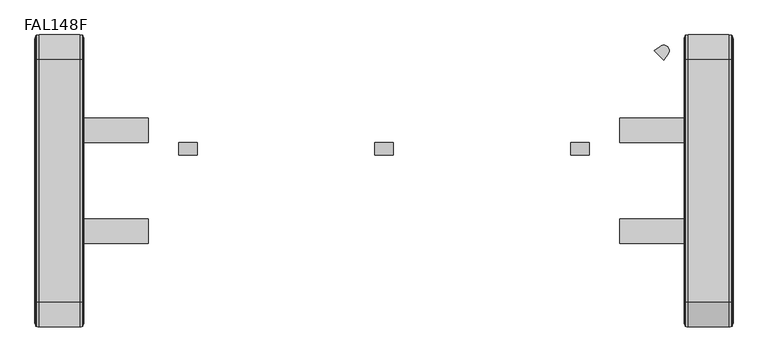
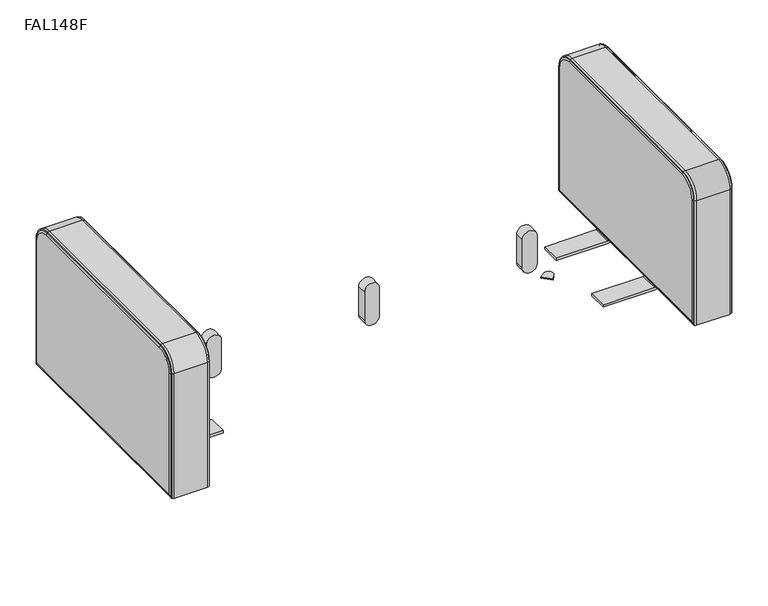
"""IFC4 building model written with IfcOpenShell, lengths in millimetres: furniture geometry, Stance_HC-Flora-Seat_Straight : FAL148F."""

from ifc_helpers import new_model, si_unit, point, frame, frame_2d, origin, place, context, project, spatial, polyline, circle_curve, ellipse_curve, trimmed, segment, composite_curve, outline, extrude, source, transform, mapped, element, save
from ifc_brep_helpers import plane_surface, cylinder_surface, revolved_surface, advanced_brep


def fal148f_be86bac1(model_context):
    return source(origin(), model_context, "Body", "SolidModel", [
        extrude(outline(composite_curve([segment(polyline([(298.45, 596.9), (222.25, 596.9)]), True, "CONTINUOUS"), segment(trimmed(circle_curve(frame_2d((222.25, 615.95)), 19.05), [point((222.25, 596.9))], [point((222.25, 635.0))], False, "CARTESIAN"), True, "CONTINUOUS"), segment(polyline([(222.25, 635.0), (298.45, 635.0)]), True, "CONTINUOUS"), segment(trimmed(circle_curve(frame_2d((298.45, 615.95)), 19.05), [point((298.45, 635.0))], [point((298.45, 596.9))], False, "CARTESIAN"), True, "CONTINUOUS")], self_intersect=False)), frame((0.0, -249.250193, 0.0), z_axis=(0.0, 1.0, 0.0), x_axis=(0.0, 0.0, 1.0)), (0.0, 0.0, 1.0), 25.3999939),
        extrude(outline(composite_curve([segment(polyline([(319.1128982, 1244.599997), (204.8129042, 1244.599997)]), True, "CONTINUOUS"), segment(trimmed(circle_curve(frame_2d((204.8129042, 1238.249997)), 6.35), [point((204.8129042, 1244.599997))], [point((198.4629042, 1238.249997))], True, "CARTESIAN"), True, "CONTINUOUS"), segment(polyline([(198.4629042, 1238.249997), (198.4629042, 1104.900003), (192.1128921, 1104.900003), (192.1128921, 1238.249997)]), True, "CONTINUOUS"), segment(trimmed(circle_curve(frame_2d((204.8129042, 1238.249997)), 12.7000121), [point((192.1128921, 1238.249997))], [point((204.8129042, 1250.9500091))], False, "CARTESIAN"), True, "CONTINUOUS"), segment(polyline([(204.8129042, 1250.9500091), (319.1128982, 1250.9500091), (319.1128982, 1244.599997)]), True, "CONTINUOUS")], self_intersect=False)), frame((0.0, -223.8501991, 0.0), z_axis=(0.0, 1.0, 0.0), x_axis=(0.0, 0.0, 1.0)), (0.0, 0.0, 1.0), 50.7999879),
        extrude(outline(composite_curve([segment(polyline([(319.1128982, 1244.599997), (204.8129042, 1244.599997)]), True, "CONTINUOUS"), segment(trimmed(circle_curve(frame_2d((204.8129042, 1238.249997)), 6.35), [point((204.8129042, 1244.599997))], [point((198.4629042, 1238.249997))], True, "CARTESIAN"), True, "CONTINUOUS"), segment(polyline([(198.4629042, 1238.249997), (198.4629042, 1104.900003), (192.1128921, 1104.900003), (192.1128921, 1238.249997)]), True, "CONTINUOUS"), segment(trimmed(circle_curve(frame_2d((204.8129042, 1238.249997)), 12.7000121), [point((192.1128921, 1238.249997))], [point((204.8129042, 1250.9500091))], False, "CARTESIAN"), True, "CONTINUOUS"), segment(polyline([(204.8129042, 1250.9500091), (319.1128982, 1250.9500091), (319.1128982, 1244.599997)]), True, "CONTINUOUS")], self_intersect=False)), frame((0.0, -433.3239864, 0.0), z_axis=(0.0, 1.0, 0.0), x_axis=(0.0, 0.0, 1.0)), (0.0, 0.0, 1.0), 50.7999879),
        advanced_brep(
        [(1238.2499485, -555.6250121, 580.256636), (1238.2499485, -50.8, 580.256636), (1238.2499485, -8.73125, 538.187886), (1238.2499485, -8.73125, 207.1941542), (1238.2499485, -597.6937621, 207.1941542), (1238.2499485, -597.6937621, 538.187886), (1339.849997, -597.6937621, 538.187886), (1339.849997, -597.6937621, 207.1941542), (1339.849997, -8.73125, 207.1941542), (1339.849997, -8.73125, 538.187886), (1339.849997, -50.8, 580.256636), (1339.849997, -555.6250121, 580.256636), (1246.734142, -606.4250121, 538.187886), (1331.3658035, -606.4250121, 538.187886), (1331.3658035, -555.6250121, 588.987886), (1246.734142, -555.6250121, 588.987886), (1246.734142, -606.4250121, 198.4629042), (1331.3658035, -606.4250121, 198.4629042), (1246.734142, 0.0, 198.4629042), (1331.3658035, 0.0, 198.4629042), (1246.734142, 0.0, 538.187886), (1331.3658035, 0.0, 538.187886), (1246.734142, -50.8, 588.987886), (1331.3658035, -50.8, 588.987886), (1337.2065441, -603.3867316, 538.187886), (1337.2065441, -555.6250121, 585.9496056), (1337.2689212, -555.6250121, 587.8832953), (1337.2689212, -605.3204213, 538.187886), (1337.2065441, -603.3867316, 201.5011847), (1337.2689212, -605.3204213, 199.567495), (1337.2065441, -3.0382805, 201.5011847), (1337.2689212, -1.1045908, 199.567495), (1337.2065441, -3.0382805, 538.187886), (1337.2689212, -1.1045908, 538.187886), (1337.2065441, -50.8, 585.9496056), (1337.2689212, -50.8, 587.8832953), (1240.8310243, -555.6250121, 587.8832953), (1240.8310243, -605.3204213, 538.187886), (1240.8934014, -555.6250121, 585.9496056), (1240.8934014, -603.3867316, 538.187886), (1240.8310243, -605.3204213, 199.567495), (1240.8934014, -603.3867316, 201.5011847), (1240.8310243, -1.1045908, 199.567495), (1240.8934014, -3.0382805, 201.5011847), (1240.8310243, -1.1045908, 538.187886), (1240.8934014, -3.0382805, 538.187886), (1240.8310243, -50.8, 587.8832953), (1240.8934014, -50.8, 585.9496056)],
        [
            (0, 1),
            (1, 2, circle_curve(frame((1238.2499485, -50.8, 538.187886), z_axis=(-1.0, 0.0, 0.0), x_axis=(0.0, 1.0, 0.0)), 42.06875)),
            (2, 3),
            (3, 4),
            (4, 5),
            (5, 0, circle_curve(frame((1238.2499485, -555.6250121, 538.187886), z_axis=(-1.0, 0.0, 0.0), x_axis=(0.0, 0.0, 1.0)), 42.06875)),
            (6, 7),
            (7, 8),
            (8, 9),
            (9, 10, circle_curve(frame((1339.849997, -50.8, 538.187886), z_axis=(1.0, 0.0, 0.0), x_axis=(0.0, 1.0, 0.0)), 42.06875)),
            (10, 11),
            (11, 6, circle_curve(frame((1339.849997, -555.6250121, 538.187886), z_axis=(1.0, 0.0, 0.0), x_axis=(0.0, 0.0, 1.0)), 42.06875)),
            (12, 13),
            (13, 14, circle_curve(frame((1331.3658035, -555.6250121, 538.187886), z_axis=(-1.0, 0.0, 0.0), x_axis=(0.0, 0.0, 1.0)), 50.8)),
            (14, 15),
            (15, 12, circle_curve(frame((1246.734142, -555.6250121, 538.187886), z_axis=(1.0, 0.0, 0.0), x_axis=(0.0, 0.0, 1.0)), 50.8)),
            (12, 16),
            (16, 17),
            (17, 13),
            (16, 18),
            (18, 19),
            (19, 17),
            (18, 20),
            (20, 21),
            (21, 19),
            (20, 22, circle_curve(frame((1246.734142, -50.8, 538.187886), z_axis=(1.0, 0.0, 0.0), x_axis=(0.0, 1.0, 0.0)), 50.8)),
            (22, 23),
            (23, 21, circle_curve(frame((1331.3658035, -50.8, 538.187886), z_axis=(-1.0, 0.0, 0.0), x_axis=(0.0, 1.0, 0.0)), 50.8)),
            (14, 23),
            (22, 15),
            (24, 6, circle_curve(frame((1332.3980492, -597.6937621, 538.187886), z_axis=(0.0, 0.0, 1.0), x_axis=(0.0, 1.0, 0.0)), 7.4519478)),
            (11, 25, circle_curve(frame((1332.3980492, -555.6250121, 580.256636), z_axis=(0.0, -1.0, 0.0), x_axis=(0.0, 0.0, -1.0)), 7.4519478)),
            (25, 24, circle_curve(frame((1337.2065441, -555.6250121, 538.187886), z_axis=(1.0, 0.0, 0.0), x_axis=(0.0, 0.0, 1.0)), 47.7617195)),
            (25, 26, circle_curve(frame((1336.8982081, -555.6250121, 586.9274028), z_axis=(0.0, -1.0, 0.0), x_axis=(0.0, 0.0, -1.0)), 1.0252602)),
            (26, 27, circle_curve(frame((1337.2689212, -555.6250121, 538.187886), z_axis=(1.0, 0.0, 0.0), x_axis=(0.0, 0.0, 1.0)), 49.6954092)),
            (27, 24, circle_curve(frame((1336.8982081, -604.3645289, 538.187886), z_axis=(0.0, 0.0, 1.0), x_axis=(0.0, 1.0, 0.0)), 1.0252602)),
            (13, 27, circle_curve(frame((1331.3658035, -590.099093, 538.187886), z_axis=(0.0, 0.0, 1.0), x_axis=(0.0, 1.0, 0.0)), 16.3259191)),
            (26, 14, circle_curve(frame((1331.3658035, -555.6250121, 572.661967), z_axis=(0.0, -1.0, 0.0), x_axis=(0.0, 0.0, -1.0)), 16.3259191)),
            (24, 28),
            (28, 7, ellipse_curve(frame((1332.3980492, -597.6937621, 207.1941542), z_axis=(0.0, -0.7071067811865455, 0.7071067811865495), x_axis=(0.0, 0.7071067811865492, 0.7071067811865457)), 10.5386456, 7.4519478)),
            (27, 29),
            (29, 28, ellipse_curve(frame((1336.8982081, -604.3645289, 200.5233874), z_axis=(0.0, -0.7071067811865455, 0.7071067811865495), x_axis=(0.0, 0.7071067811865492, 0.7071067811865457)), 1.4499369, 1.0252602)),
            (17, 29, ellipse_curve(frame((1331.3658035, -590.099093, 214.7888233), z_axis=(0.0, -0.7071067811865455, 0.7071067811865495), x_axis=(0.0, 0.7071067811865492, 0.7071067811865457)), 23.0883362, 16.3259191)),
            (28, 30),
            (30, 8, ellipse_curve(frame((1332.3980492, -8.73125, 207.1941542), z_axis=(0.0, -0.7071067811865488, -0.7071067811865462), x_axis=(0.0, -0.7071067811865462, 0.7071067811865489)), 10.5386456, 7.4519478)),
            (29, 31),
            (31, 30, ellipse_curve(frame((1336.8982081, -2.0604832, 200.5233874), z_axis=(0.0, -0.7071067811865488, -0.7071067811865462), x_axis=(0.0, -0.7071067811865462, 0.7071067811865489)), 1.4499369, 1.0252602)),
            (19, 31, ellipse_curve(frame((1331.3658035, -16.3259191, 214.7888233), z_axis=(0.0, -0.7071067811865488, -0.7071067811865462), x_axis=(0.0, -0.7071067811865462, 0.7071067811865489)), 23.0883362, 16.3259191)),
            (30, 32),
            (32, 9, circle_curve(frame((1332.3980492, -8.73125, 538.187886), z_axis=(0.0, 0.0, -1.0), x_axis=(0.0, -1.0, 0.0)), 7.4519478)),
            (31, 33),
            (33, 32, circle_curve(frame((1336.8982081, -2.0604832, 538.187886), z_axis=(0.0, 0.0, -1.0), x_axis=(0.0, -1.0, 0.0)), 1.0252602)),
            (21, 33, circle_curve(frame((1331.3658035, -16.3259191, 538.187886), z_axis=(0.0, 0.0, -1.0), x_axis=(0.0, -1.0, 0.0)), 16.3259191)),
            (32, 34, circle_curve(frame((1337.2065441, -50.8, 538.187886), z_axis=(1.0, 0.0, 0.0), x_axis=(0.0, 1.0, 0.0)), 47.7617195)),
            (34, 10, circle_curve(frame((1332.3980492, -50.8, 580.256636), z_axis=(0.0, 1.0, 0.0), x_axis=(0.0, 0.0, -1.0)), 7.4519478)),
            (33, 35, circle_curve(frame((1337.2689212, -50.8, 538.187886), z_axis=(1.0, 0.0, 0.0), x_axis=(0.0, 1.0, 0.0)), 49.6954092)),
            (35, 34, circle_curve(frame((1336.8982081, -50.8, 586.9274028), z_axis=(0.0, 1.0, 0.0), x_axis=(0.0, 0.0, -1.0)), 1.0252602)),
            (23, 35, circle_curve(frame((1331.3658035, -50.8, 572.661967), z_axis=(0.0, 1.0, 0.0), x_axis=(0.0, 0.0, -1.0)), 16.3259191)),
            (34, 25),
            (35, 26),
            (15, 36, circle_curve(frame((1246.734142, -555.6250121, 572.661967), z_axis=(0.0, -1.0, 0.0), x_axis=(0.0, 0.0, -1.0)), 16.3259191)),
            (36, 37, circle_curve(frame((1240.8310243, -555.6250121, 538.187886), z_axis=(1.0, 0.0, 0.0), x_axis=(0.0, 0.0, 1.0)), 49.6954092)),
            (37, 12, circle_curve(frame((1246.734142, -590.099093, 538.187886), z_axis=(0.0, 0.0, 1.0), x_axis=(0.0, 1.0, 0.0)), 16.3259191)),
            (36, 38, circle_curve(frame((1241.2017374, -555.6250121, 586.9274028), z_axis=(0.0, -1.0, 0.0), x_axis=(0.0, 0.0, -1.0)), 1.0252602)),
            (38, 39, circle_curve(frame((1240.8934014, -555.6250121, 538.187886), z_axis=(1.0, 0.0, 0.0), x_axis=(0.0, 0.0, 1.0)), 47.7617195)),
            (39, 37, circle_curve(frame((1241.2017374, -604.3645289, 538.187886), z_axis=(0.0, 0.0, 1.0), x_axis=(0.0, 1.0, 0.0)), 1.0252602)),
            (38, 0, circle_curve(frame((1245.7018963, -555.6250121, 580.256636), z_axis=(0.0, -1.0, 0.0), x_axis=(0.0, 0.0, -1.0)), 7.4519478)),
            (5, 39, circle_curve(frame((1245.7018963, -597.6937621, 538.187886), z_axis=(0.0, 0.0, 1.0), x_axis=(0.0, 1.0, 0.0)), 7.4519478)),
            (37, 40),
            (40, 16, ellipse_curve(frame((1246.734142, -590.099093, 214.7888233), z_axis=(0.0, -0.7071067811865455, 0.7071067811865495), x_axis=(0.0, 0.7071067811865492, 0.7071067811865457)), 23.0883362, 16.3259191)),
            (39, 41),
            (41, 40, ellipse_curve(frame((1241.2017374, -604.3645289, 200.5233874), z_axis=(0.0, -0.7071067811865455, 0.7071067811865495), x_axis=(0.0, 0.7071067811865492, 0.7071067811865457)), 1.4499369, 1.0252602)),
            (4, 41, ellipse_curve(frame((1245.7018963, -597.6937621, 207.1941542), z_axis=(0.0, -0.7071067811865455, 0.7071067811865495), x_axis=(0.0, 0.7071067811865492, 0.7071067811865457)), 10.5386456, 7.4519478)),
            (40, 42),
            (42, 18, ellipse_curve(frame((1246.734142, -16.3259191, 214.7888233), z_axis=(0.0, -0.7071067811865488, -0.7071067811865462), x_axis=(0.0, -0.7071067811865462, 0.7071067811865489)), 23.0883362, 16.3259191)),
            (41, 43),
            (43, 42, ellipse_curve(frame((1241.2017374, -2.0604832, 200.5233874), z_axis=(0.0, -0.7071067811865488, -0.7071067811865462), x_axis=(0.0, -0.7071067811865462, 0.7071067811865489)), 1.4499369, 1.0252602)),
            (3, 43, ellipse_curve(frame((1245.7018963, -8.73125, 207.1941542), z_axis=(0.0, -0.7071067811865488, -0.7071067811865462), x_axis=(0.0, -0.7071067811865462, 0.7071067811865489)), 10.5386456, 7.4519478)),
            (42, 44),
            (44, 20, circle_curve(frame((1246.734142, -16.3259191, 538.187886), z_axis=(0.0, 0.0, -1.0), x_axis=(0.0, -1.0, 0.0)), 16.3259191)),
            (43, 45),
            (45, 44, circle_curve(frame((1241.2017374, -2.0604832, 538.187886), z_axis=(0.0, 0.0, -1.0), x_axis=(0.0, -1.0, 0.0)), 1.0252602)),
            (2, 45, circle_curve(frame((1245.7018963, -8.73125, 538.187886), z_axis=(0.0, 0.0, -1.0), x_axis=(0.0, -1.0, 0.0)), 7.4519478)),
            (44, 46, circle_curve(frame((1240.8310243, -50.8, 538.187886), z_axis=(1.0, 0.0, 0.0), x_axis=(0.0, 1.0, 0.0)), 49.6954092)),
            (46, 22, circle_curve(frame((1246.734142, -50.8, 572.661967), z_axis=(0.0, 1.0, 0.0), x_axis=(0.0, 0.0, -1.0)), 16.3259191)),
            (45, 47, circle_curve(frame((1240.8934014, -50.8, 538.187886), z_axis=(1.0, 0.0, 0.0), x_axis=(0.0, 1.0, 0.0)), 47.7617195)),
            (47, 46, circle_curve(frame((1241.2017374, -50.8, 586.9274028), z_axis=(0.0, 1.0, 0.0), x_axis=(0.0, 0.0, -1.0)), 1.0252602)),
            (1, 47, circle_curve(frame((1245.7018963, -50.8, 580.256636), z_axis=(0.0, 1.0, 0.0), x_axis=(0.0, 0.0, -1.0)), 7.4519478)),
            (46, 36),
            (47, 38),
        ],
        [
            plane_surface(frame((1238.2499485, -555.6250121, 580.256636), z_axis=(-1.0, 0.0, 0.0), x_axis=(0.0, -1.0, 0.0))),
            plane_surface(frame((1339.849997, -555.6250121, 580.256636), z_axis=(1.0, 0.0, 0.0), x_axis=(0.0, 1.0, 0.0))),
            cylinder_surface(frame((1231.9, -555.6250121, 538.187886), z_axis=(-1.0, 0.0, 0.0), x_axis=(0.0, 0.0, 1.0)), 50.8),
            plane_surface(frame((1331.3658035, -606.4250121, 538.187886), z_axis=(0.0, -1.0, 0.0), x_axis=(0.0, 0.0, -1.0))),
            plane_surface(frame((1331.3658035, -606.4250121, 198.4629042), z_axis=(0.0, 0.0, -1.0), x_axis=(0.0, 1.0, 0.0))),
            plane_surface(frame((1331.3658035, 0.0, 198.4629042), z_axis=(0.0, 1.0, 0.0), x_axis=(0.0, 0.0, 1.0))),
            cylinder_surface(frame((1231.9, -50.8, 538.187886), z_axis=(-1.0, 0.0, 0.0), x_axis=(0.0, 1.0, 0.0)), 50.8),
            plane_surface(frame((1331.3658035, -50.8, 588.987886), z_axis=(0.0, 0.0, 1.0), x_axis=(0.0, -1.0, 0.0))),
            revolved_surface(trimmed(ellipse_curve(frame((1332.3980492, -555.6250121, 580.256636), z_axis=(0.0, -1.0, 0.0), x_axis=(0.0, 0.0, -1.0)), 7.4519478, 7.4519478), [point((1339.849997, -555.6250121, 580.256636))], [point((1337.2065441, -555.6250121, 585.9496056))], True, "CARTESIAN"), (1231.9, -555.6250121, 538.187886), (-1.0, 0.0, 0.0)),
            revolved_surface(trimmed(ellipse_curve(frame((1336.8982081, -555.6250121, 586.9274028), z_axis=(0.0, -1.0, 0.0), x_axis=(0.0, 0.0, -1.0)), 1.0252602, 1.0252602), [point((1337.2065441, -555.6250121, 585.9496056))], [point((1337.2689212, -555.6250121, 587.8832953))], True, "CARTESIAN"), (1231.9, -555.6250121, 538.187886), (-1.0, 0.0, 0.0)),
            revolved_surface(trimmed(ellipse_curve(frame((1331.3658035, -555.6250121, 572.661967), z_axis=(0.0, -1.0, 0.0), x_axis=(0.0, 0.0, -1.0)), 16.3259191, 16.3259191), [point((1337.2689212, -555.6250121, 587.8832953))], [point((1331.3658035, -555.6250121, 588.987886))], True, "CARTESIAN"), (1231.9, -555.6250121, 538.187886), (-1.0, 0.0, 0.0)),
            cylinder_surface(frame((1332.3980492, -597.6937621, 538.187886), z_axis=(0.0, 0.0, 1.0), x_axis=(0.0, 1.0, 0.0)), 7.4519478),
            cylinder_surface(frame((1336.8982081, -604.3645289, 538.187886), z_axis=(0.0, 0.0, 1.0), x_axis=(0.0, 1.0, 0.0)), 1.0252602),
            cylinder_surface(frame((1331.3658035, -590.099093, 538.187886), z_axis=(0.0, 0.0, 1.0), x_axis=(0.0, 1.0, 0.0)), 16.3259191),
            cylinder_surface(frame((1332.3980492, -606.4250121, 207.1941542), z_axis=(0.0, -1.0, 0.0), x_axis=(0.0, 0.0, 1.0)), 7.4519478),
            cylinder_surface(frame((1336.8982081, -606.4250121, 200.5233874), z_axis=(0.0, -1.0, 0.0), x_axis=(0.0, 0.0, 1.0)), 1.0252602),
            cylinder_surface(frame((1331.3658035, -606.4250121, 214.7888233), z_axis=(0.0, -1.0, 0.0), x_axis=(0.0, 0.0, 1.0)), 16.3259191),
            cylinder_surface(frame((1332.3980492, -8.73125, 198.4629042), z_axis=(0.0, 0.0, -1.0), x_axis=(0.0, -1.0, 0.0)), 7.4519478),
            cylinder_surface(frame((1336.8982081, -2.0604832, 198.4629042), z_axis=(0.0, 0.0, -1.0), x_axis=(0.0, -1.0, 0.0)), 1.0252602),
            cylinder_surface(frame((1331.3658035, -16.3259191, 198.4629042), z_axis=(0.0, 0.0, -1.0), x_axis=(0.0, -1.0, 0.0)), 16.3259191),
            revolved_surface(trimmed(ellipse_curve(frame((1332.3980492, -8.73125, 538.187886), z_axis=(0.0, 0.0, 1.0), x_axis=(0.0, -1.0, 0.0)), 7.4519478, 7.4519478), [point((1339.849997, -8.73125, 538.187886))], [point((1337.2065441, -3.0382805, 538.187886))], True, "CARTESIAN"), (1231.9, -50.8, 538.187886), (-1.0, 0.0, 0.0)),
            revolved_surface(trimmed(ellipse_curve(frame((1336.8982081, -2.0604832, 538.187886), z_axis=(0.0, 0.0, 1.0), x_axis=(0.0, -1.0, 0.0)), 1.0252602, 1.0252602), [point((1337.2065441, -3.0382805, 538.187886))], [point((1337.2689212, -1.1045908, 538.187886))], True, "CARTESIAN"), (1231.9, -50.8, 538.187886), (-1.0, 0.0, 0.0)),
            revolved_surface(trimmed(ellipse_curve(frame((1331.3658035, -16.3259191, 538.187886), z_axis=(0.0, 0.0, 1.0), x_axis=(0.0, -1.0, 0.0)), 16.3259191, 16.3259191), [point((1337.2689212, -1.1045908, 538.187886))], [point((1331.3658035, 0.0, 538.187886))], True, "CARTESIAN"), (1231.9, -50.8, 538.187886), (-1.0, 0.0, 0.0)),
            cylinder_surface(frame((1332.3980492, -50.8, 580.256636), z_axis=(0.0, 1.0, 0.0), x_axis=(0.0, 0.0, -1.0)), 7.4519478),
            cylinder_surface(frame((1336.8982081, -50.8, 586.9274028), z_axis=(0.0, 1.0, 0.0), x_axis=(0.0, 0.0, -1.0)), 1.0252602),
            cylinder_surface(frame((1331.3658035, -50.8, 572.661967), z_axis=(0.0, 1.0, 0.0), x_axis=(0.0, 0.0, -1.0)), 16.3259191),
            revolved_surface(trimmed(ellipse_curve(frame((1246.734142, -555.6250121, 572.661967), z_axis=(0.0, -1.0, 0.0), x_axis=(0.0, 0.0, -1.0)), 16.3259191, 16.3259191), [point((1246.734142, -555.6250121, 588.987886))], [point((1240.8310243, -555.6250121, 587.8832953))], True, "CARTESIAN"), (1231.9, -555.6250121, 538.187886), (-1.0, 0.0, 0.0)),
            revolved_surface(trimmed(ellipse_curve(frame((1241.2017374, -555.6250121, 586.9274028), z_axis=(0.0, -1.0, 0.0), x_axis=(0.0, 0.0, -1.0)), 1.0252602, 1.0252602), [point((1240.8310243, -555.6250121, 587.8832953))], [point((1240.8934014, -555.6250121, 585.9496056))], True, "CARTESIAN"), (1231.9, -555.6250121, 538.187886), (-1.0, 0.0, 0.0)),
            revolved_surface(trimmed(ellipse_curve(frame((1245.7018963, -555.6250121, 580.256636), z_axis=(0.0, -1.0, 0.0), x_axis=(0.0, 0.0, -1.0)), 7.4519478, 7.4519478), [point((1240.8934014, -555.6250121, 585.9496056))], [point((1238.2499485, -555.6250121, 580.256636))], True, "CARTESIAN"), (1231.9, -555.6250121, 538.187886), (-1.0, 0.0, 0.0)),
            cylinder_surface(frame((1246.734142, -590.099093, 538.187886), z_axis=(0.0, 0.0, 1.0), x_axis=(0.0, 1.0, 0.0)), 16.3259191),
            cylinder_surface(frame((1241.2017374, -604.3645289, 538.187886), z_axis=(0.0, 0.0, 1.0), x_axis=(0.0, 1.0, 0.0)), 1.0252602),
            cylinder_surface(frame((1245.7018963, -597.6937621, 538.187886), z_axis=(0.0, 0.0, 1.0), x_axis=(0.0, 1.0, 0.0)), 7.4519478),
            cylinder_surface(frame((1246.734142, -606.4250121, 214.7888233), z_axis=(0.0, -1.0, 0.0), x_axis=(0.0, 0.0, 1.0)), 16.3259191),
            cylinder_surface(frame((1241.2017374, -606.4250121, 200.5233874), z_axis=(0.0, -1.0, 0.0), x_axis=(0.0, 0.0, 1.0)), 1.0252602),
            cylinder_surface(frame((1245.7018963, -606.4250121, 207.1941542), z_axis=(0.0, -1.0, 0.0), x_axis=(0.0, 0.0, 1.0)), 7.4519478),
            cylinder_surface(frame((1246.734142, -16.3259191, 198.4629042), z_axis=(0.0, 0.0, -1.0), x_axis=(0.0, -1.0, 0.0)), 16.3259191),
            cylinder_surface(frame((1241.2017374, -2.0604832, 198.4629042), z_axis=(0.0, 0.0, -1.0), x_axis=(0.0, -1.0, 0.0)), 1.0252602),
            cylinder_surface(frame((1245.7018963, -8.73125, 198.4629042), z_axis=(0.0, 0.0, -1.0), x_axis=(0.0, -1.0, 0.0)), 7.4519478),
            revolved_surface(trimmed(ellipse_curve(frame((1246.734142, -16.3259191, 538.187886), z_axis=(0.0, 0.0, 1.0), x_axis=(0.0, -1.0, 0.0)), 16.3259191, 16.3259191), [point((1246.734142, 0.0, 538.187886))], [point((1240.8310243, -1.1045908, 538.187886))], True, "CARTESIAN"), (1231.9, -50.8, 538.187886), (-1.0, 0.0, 0.0)),
            revolved_surface(trimmed(ellipse_curve(frame((1241.2017374, -2.0604832, 538.187886), z_axis=(0.0, 0.0, 1.0), x_axis=(0.0, -1.0, 0.0)), 1.0252602, 1.0252602), [point((1240.8310243, -1.1045908, 538.187886))], [point((1240.8934014, -3.0382805, 538.187886))], True, "CARTESIAN"), (1231.9, -50.8, 538.187886), (-1.0, 0.0, 0.0)),
            revolved_surface(trimmed(ellipse_curve(frame((1245.7018963, -8.73125, 538.187886), z_axis=(0.0, 0.0, 1.0), x_axis=(0.0, -1.0, 0.0)), 7.4519478, 7.4519478), [point((1240.8934014, -3.0382805, 538.187886))], [point((1238.2499485, -8.73125, 538.187886))], True, "CARTESIAN"), (1231.9, -50.8, 538.187886), (-1.0, 0.0, 0.0)),
            cylinder_surface(frame((1246.734142, -50.8, 572.661967), z_axis=(0.0, 1.0, 0.0), x_axis=(0.0, 0.0, -1.0)), 16.3259191),
            cylinder_surface(frame((1241.2017374, -50.8, 586.9274028), z_axis=(0.0, 1.0, 0.0), x_axis=(0.0, 0.0, -1.0)), 1.0252602),
            cylinder_surface(frame((1245.7018963, -50.8, 580.256636), z_axis=(0.0, 1.0, 0.0), x_axis=(0.0, 0.0, -1.0)), 7.4519478),
        ],
        [
            (0, [[1, 2, 3, 4, 5, 6]]),
            (1, [[7, 8, 9, 10, 11, 12]]),
            (2, [[13, 14, 15, 16]]),
            (3, [[17, 18, 19, -13]]),
            (4, [[20, 21, 22, -18]]),
            (5, [[23, 24, 25, -21]]),
            (6, [[26, 27, 28, -24]]),
            (7, [[29, -27, 30, -15]]),
            (8, [[31, -12, 32, 33]]),
            (9, [[34, 35, 36, -33]]),
            (10, [[37, -35, 38, -14]]),
            (11, [[39, 40, -7, -31]]),
            (12, [[41, 42, -39, -36]]),
            (13, [[43, -41, -37, -19]]),
            (14, [[44, 45, -8, -40]]),
            (15, [[46, 47, -44, -42]]),
            (16, [[48, -46, -43, -22]]),
            (17, [[49, 50, -9, -45]]),
            (18, [[51, 52, -49, -47]]),
            (19, [[53, -51, -48, -25]]),
            (20, [[54, 55, -10, -50]]),
            (21, [[56, 57, -54, -52]]),
            (22, [[58, -56, -53, -28]]),
            (23, [[-11, -55, 59, -32]]),
            (24, [[-59, -57, 60, -34]]),
            (25, [[-38, -60, -58, -29]]),
            (26, [[61, 62, 63, -16]]),
            (27, [[64, 65, 66, -62]]),
            (28, [[67, -6, 68, -65]]),
            (29, [[-63, 69, 70, -17]]),
            (30, [[71, 72, -69, -66]]),
            (31, [[-5, 73, -71, -68]]),
            (32, [[-70, 74, 75, -20]]),
            (33, [[76, 77, -74, -72]]),
            (34, [[-4, 78, -76, -73]]),
            (35, [[-75, 79, 80, -23]]),
            (36, [[81, 82, -79, -77]]),
            (37, [[-3, 83, -81, -78]]),
            (38, [[-80, 84, 85, -26]]),
            (39, [[86, 87, -84, -82]]),
            (40, [[-2, 88, -86, -83]]),
            (41, [[-85, 89, -61, -30]]),
            (42, [[-89, -87, 90, -64]]),
            (43, [[-90, -88, -1, -67]]),
        ],
    ),
        extrude(outline(composite_curve([segment(polyline([(319.1128982, -12.699997), (319.1128982, -19.0500091), (204.8129042, -19.0500091)]), True, "CONTINUOUS"), segment(trimmed(circle_curve(frame_2d((204.8129042, -6.349997)), 12.7000121), [point((204.8129042, -19.0500091))], [point((192.1128921, -6.349997))], False, "CARTESIAN"), True, "CONTINUOUS"), segment(polyline([(192.1128921, -6.349997), (192.1128921, 126.999997), (198.4629042, 126.999997), (198.4629042, -6.349997)]), True, "CONTINUOUS"), segment(trimmed(circle_curve(frame_2d((204.8129042, -6.349997)), 6.35), [point((198.4629042, -6.349997))], [point((204.8129042, -12.699997))], True, "CARTESIAN"), True, "CONTINUOUS"), segment(polyline([(204.8129042, -12.699997), (319.1128982, -12.699997)]), True, "CONTINUOUS")], self_intersect=False)), frame((0.0, -223.8501991, 0.0), z_axis=(0.0, 1.0, 0.0), x_axis=(0.0, 0.0, 1.0)), (0.0, 0.0, 1.0), 50.7999879),
        extrude(outline(composite_curve([segment(polyline([(319.1128982, -12.699997), (319.1128982, -19.0500091), (204.8129042, -19.0500091)]), True, "CONTINUOUS"), segment(trimmed(circle_curve(frame_2d((204.8129042, -6.349997)), 12.7000121), [point((204.8129042, -19.0500091))], [point((192.1128921, -6.349997))], False, "CARTESIAN"), True, "CONTINUOUS"), segment(polyline([(192.1128921, -6.349997), (192.1128921, 126.999997), (198.4629042, 126.999997), (198.4629042, -6.349997)]), True, "CONTINUOUS"), segment(trimmed(circle_curve(frame_2d((204.8129042, -6.349997)), 6.35), [point((198.4629042, -6.349997))], [point((204.8129042, -12.699997))], True, "CARTESIAN"), True, "CONTINUOUS"), segment(polyline([(204.8129042, -12.699997), (319.1128982, -12.699997)]), True, "CONTINUOUS")], self_intersect=False)), frame((0.0, -433.3239864, 0.0), z_axis=(0.0, 1.0, 0.0), x_axis=(0.0, 0.0, 1.0)), (0.0, 0.0, 1.0), 50.7999879),
        advanced_brep(
        [(-6.3499485, -555.6250121, 580.256636), (-6.3499485, -597.6937621, 538.187886), (-6.3499485, -597.6937621, 207.1941542), (-6.3499485, -8.73125, 207.1941542), (-6.3499485, -8.73125, 538.187886), (-6.3499485, -50.8, 580.256636), (-107.949997, -597.6937621, 538.187886), (-107.949997, -555.6250121, 580.256636), (-107.949997, -50.8, 580.256636), (-107.949997, -8.73125, 538.187886), (-107.949997, -8.73125, 207.1941542), (-107.949997, -597.6937621, 207.1941542), (-14.834142, -606.4250121, 538.187886), (-14.834142, -555.6250121, 588.987886), (-99.4658035, -555.6250121, 588.987886), (-99.4658035, -606.4250121, 538.187886), (-99.4658035, -606.4250121, 198.4629042), (-14.834142, -606.4250121, 198.4629042), (-99.4658035, 0.0, 198.4629042), (-14.834142, 0.0, 198.4629042), (-99.4658035, 0.0, 538.187886), (-14.834142, 0.0, 538.187886), (-99.4658035, -50.8, 588.987886), (-14.834142, -50.8, 588.987886), (-105.3065441, -603.3867316, 538.187886), (-105.3065441, -555.6250121, 585.9496056), (-105.3689212, -605.3204213, 538.187886), (-105.3689212, -555.6250121, 587.8832953), (-105.3065441, -603.3867316, 201.5011847), (-105.3689212, -605.3204213, 199.567495), (-105.3065441, -3.0382805, 201.5011847), (-105.3689212, -1.1045908, 199.567495), (-105.3065441, -3.0382805, 538.187886), (-105.3689212, -1.1045908, 538.187886), (-105.3065441, -50.8, 585.9496056), (-105.3689212, -50.8, 587.8832953), (-8.9310243, -605.3204213, 538.187886), (-8.9310243, -555.6250121, 587.8832953), (-8.9934014, -603.3867316, 538.187886), (-8.9934014, -555.6250121, 585.9496056), (-8.9310243, -605.3204213, 199.567495), (-8.9934014, -603.3867316, 201.5011847), (-8.9310243, -1.1045908, 199.567495), (-8.9934014, -3.0382805, 201.5011847), (-8.9310243, -1.1045908, 538.187886), (-8.9934014, -3.0382805, 538.187886), (-8.9310243, -50.8, 587.8832953), (-8.9934014, -50.8, 585.9496056)],
        [
            (0, 1, circle_curve(frame((-6.3499485, -555.6250121, 538.187886), z_axis=(1.0, 0.0, 0.0), x_axis=(0.0, 0.0, 1.0)), 42.06875)),
            (1, 2),
            (2, 3),
            (3, 4),
            (4, 5, circle_curve(frame((-6.3499485, -50.8, 538.187886), z_axis=(1.0, 0.0, 0.0), x_axis=(0.0, 1.0, 0.0)), 42.06875)),
            (5, 0),
            (6, 7, circle_curve(frame((-107.949997, -555.6250121, 538.187886), z_axis=(-1.0, 0.0, 0.0), x_axis=(0.0, 0.0, 1.0)), 42.06875)),
            (7, 8),
            (8, 9, circle_curve(frame((-107.949997, -50.8, 538.187886), z_axis=(-1.0, 0.0, 0.0), x_axis=(0.0, 1.0, 0.0)), 42.06875)),
            (9, 10),
            (10, 11),
            (11, 6),
            (12, 13, circle_curve(frame((-14.834142, -555.6250121, 538.187886), z_axis=(-1.0, 0.0, 0.0), x_axis=(0.0, 0.0, 1.0)), 50.8)),
            (13, 14),
            (14, 15, circle_curve(frame((-99.4658035, -555.6250121, 538.187886), z_axis=(1.0, 0.0, 0.0), x_axis=(0.0, 0.0, 1.0)), 50.8)),
            (15, 12),
            (15, 16),
            (16, 17),
            (17, 12),
            (16, 18),
            (18, 19),
            (19, 17),
            (18, 20),
            (20, 21),
            (21, 19),
            (20, 22, circle_curve(frame((-99.4658035, -50.8, 538.187886), z_axis=(1.0, 0.0, 0.0), x_axis=(0.0, 1.0, 0.0)), 50.8)),
            (22, 23),
            (23, 21, circle_curve(frame((-14.834142, -50.8, 538.187886), z_axis=(-1.0, 0.0, 0.0), x_axis=(0.0, 1.0, 0.0)), 50.8)),
            (13, 23),
            (22, 14),
            (24, 25, circle_curve(frame((-105.3065441, -555.6250121, 538.187886), z_axis=(-1.0, 0.0, 0.0), x_axis=(0.0, 0.0, 1.0)), 47.7617195)),
            (25, 7, circle_curve(frame((-100.4980492, -555.6250121, 580.256636), z_axis=(0.0, -1.0, 0.0), x_axis=(0.0, 0.0, -1.0)), 7.4519478)),
            (6, 24, circle_curve(frame((-100.4980492, -597.6937621, 538.187886), z_axis=(0.0, 0.0, 1.0), x_axis=(0.0, 1.0, 0.0)), 7.4519478)),
            (24, 26, circle_curve(frame((-104.9982081, -604.3645289, 538.187886), z_axis=(0.0, 0.0, 1.0), x_axis=(0.0, 1.0, 0.0)), 1.0252602)),
            (26, 27, circle_curve(frame((-105.3689212, -555.6250121, 538.187886), z_axis=(-1.0, 0.0, 0.0), x_axis=(0.0, 0.0, 1.0)), 49.6954092)),
            (27, 25, circle_curve(frame((-104.9982081, -555.6250121, 586.9274028), z_axis=(0.0, -1.0, 0.0), x_axis=(0.0, 0.0, -1.0)), 1.0252602)),
            (14, 27, circle_curve(frame((-99.4658035, -555.6250121, 572.661967), z_axis=(0.0, -1.0, 0.0), x_axis=(0.0, 0.0, -1.0)), 16.3259191)),
            (26, 15, circle_curve(frame((-99.4658035, -590.099093, 538.187886), z_axis=(0.0, 0.0, 1.0), x_axis=(0.0, 1.0, 0.0)), 16.3259191)),
            (11, 28, ellipse_curve(frame((-100.4980492, -597.6937621, 207.1941542), z_axis=(0.0, -0.7071067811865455, 0.7071067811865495), x_axis=(0.0, 0.7071067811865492, 0.7071067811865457)), 10.5386456, 7.4519478)),
            (28, 24),
            (28, 29, ellipse_curve(frame((-104.9982081, -604.3645289, 200.5233874), z_axis=(0.0, -0.7071067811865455, 0.7071067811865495), x_axis=(0.0, 0.7071067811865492, 0.7071067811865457)), 1.4499369, 1.0252602)),
            (29, 26),
            (29, 16, ellipse_curve(frame((-99.4658035, -590.099093, 214.7888233), z_axis=(0.0, -0.7071067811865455, 0.7071067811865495), x_axis=(0.0, 0.7071067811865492, 0.7071067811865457)), 23.0883362, 16.3259191)),
            (10, 30, ellipse_curve(frame((-100.4980492, -8.73125, 207.1941542), z_axis=(0.0, -0.7071067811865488, -0.7071067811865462), x_axis=(0.0, -0.7071067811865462, 0.7071067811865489)), 10.5386456, 7.4519478)),
            (30, 28),
            (30, 31, ellipse_curve(frame((-104.9982081, -2.0604832, 200.5233874), z_axis=(0.0, -0.7071067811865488, -0.7071067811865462), x_axis=(0.0, -0.7071067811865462, 0.7071067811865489)), 1.4499369, 1.0252602)),
            (31, 29),
            (31, 18, ellipse_curve(frame((-99.4658035, -16.3259191, 214.7888233), z_axis=(0.0, -0.7071067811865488, -0.7071067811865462), x_axis=(0.0, -0.7071067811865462, 0.7071067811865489)), 23.0883362, 16.3259191)),
            (9, 32, circle_curve(frame((-100.4980492, -8.73125, 538.187886), z_axis=(0.0, 0.0, -1.0), x_axis=(0.0, -1.0, 0.0)), 7.4519478)),
            (32, 30),
            (32, 33, circle_curve(frame((-104.9982081, -2.0604832, 538.187886), z_axis=(0.0, 0.0, -1.0), x_axis=(0.0, -1.0, 0.0)), 1.0252602)),
            (33, 31),
            (33, 20, circle_curve(frame((-99.4658035, -16.3259191, 538.187886), z_axis=(0.0, 0.0, -1.0), x_axis=(0.0, -1.0, 0.0)), 16.3259191)),
            (8, 34, circle_curve(frame((-100.4980492, -50.8, 580.256636), z_axis=(0.0, 1.0, 0.0), x_axis=(0.0, 0.0, -1.0)), 7.4519478)),
            (34, 32, circle_curve(frame((-105.3065441, -50.8, 538.187886), z_axis=(-1.0, 0.0, 0.0), x_axis=(0.0, 1.0, 0.0)), 47.7617195)),
            (34, 35, circle_curve(frame((-104.9982081, -50.8, 586.9274028), z_axis=(0.0, 1.0, 0.0), x_axis=(0.0, 0.0, -1.0)), 1.0252602)),
            (35, 33, circle_curve(frame((-105.3689212, -50.8, 538.187886), z_axis=(-1.0, 0.0, 0.0), x_axis=(0.0, 1.0, 0.0)), 49.6954092)),
            (35, 22, circle_curve(frame((-99.4658035, -50.8, 572.661967), z_axis=(0.0, 1.0, 0.0), x_axis=(0.0, 0.0, -1.0)), 16.3259191)),
            (25, 34),
            (27, 35),
            (12, 36, circle_curve(frame((-14.834142, -590.099093, 538.187886), z_axis=(0.0, 0.0, 1.0), x_axis=(0.0, 1.0, 0.0)), 16.3259191)),
            (36, 37, circle_curve(frame((-8.9310243, -555.6250121, 538.187886), z_axis=(-1.0, 0.0, 0.0), x_axis=(0.0, 0.0, 1.0)), 49.6954092)),
            (37, 13, circle_curve(frame((-14.834142, -555.6250121, 572.661967), z_axis=(0.0, -1.0, 0.0), x_axis=(0.0, 0.0, -1.0)), 16.3259191)),
            (36, 38, circle_curve(frame((-9.3017374, -604.3645289, 538.187886), z_axis=(0.0, 0.0, 1.0), x_axis=(0.0, 1.0, 0.0)), 1.0252602)),
            (38, 39, circle_curve(frame((-8.9934014, -555.6250121, 538.187886), z_axis=(-1.0, 0.0, 0.0), x_axis=(0.0, 0.0, 1.0)), 47.7617195)),
            (39, 37, circle_curve(frame((-9.3017374, -555.6250121, 586.9274028), z_axis=(0.0, -1.0, 0.0), x_axis=(0.0, 0.0, -1.0)), 1.0252602)),
            (38, 1, circle_curve(frame((-13.8018963, -597.6937621, 538.187886), z_axis=(0.0, 0.0, 1.0), x_axis=(0.0, 1.0, 0.0)), 7.4519478)),
            (0, 39, circle_curve(frame((-13.8018963, -555.6250121, 580.256636), z_axis=(0.0, -1.0, 0.0), x_axis=(0.0, 0.0, -1.0)), 7.4519478)),
            (17, 40, ellipse_curve(frame((-14.834142, -590.099093, 214.7888233), z_axis=(0.0, -0.7071067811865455, 0.7071067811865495), x_axis=(0.0, 0.7071067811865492, 0.7071067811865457)), 23.0883362, 16.3259191)),
            (40, 36),
            (40, 41, ellipse_curve(frame((-9.3017374, -604.3645289, 200.5233874), z_axis=(0.0, -0.7071067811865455, 0.7071067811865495), x_axis=(0.0, 0.7071067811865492, 0.7071067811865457)), 1.4499369, 1.0252602)),
            (41, 38),
            (41, 2, ellipse_curve(frame((-13.8018963, -597.6937621, 207.1941542), z_axis=(0.0, -0.7071067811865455, 0.7071067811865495), x_axis=(0.0, 0.7071067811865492, 0.7071067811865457)), 10.5386456, 7.4519478)),
            (19, 42, ellipse_curve(frame((-14.834142, -16.3259191, 214.7888233), z_axis=(0.0, -0.7071067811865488, -0.7071067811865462), x_axis=(0.0, -0.7071067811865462, 0.7071067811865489)), 23.0883362, 16.3259191)),
            (42, 40),
            (42, 43, ellipse_curve(frame((-9.3017374, -2.0604832, 200.5233874), z_axis=(0.0, -0.7071067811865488, -0.7071067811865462), x_axis=(0.0, -0.7071067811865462, 0.7071067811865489)), 1.4499369, 1.0252602)),
            (43, 41),
            (43, 3, ellipse_curve(frame((-13.8018963, -8.73125, 207.1941542), z_axis=(0.0, -0.7071067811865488, -0.7071067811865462), x_axis=(0.0, -0.7071067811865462, 0.7071067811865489)), 10.5386456, 7.4519478)),
            (21, 44, circle_curve(frame((-14.834142, -16.3259191, 538.187886), z_axis=(0.0, 0.0, -1.0), x_axis=(0.0, -1.0, 0.0)), 16.3259191)),
            (44, 42),
            (44, 45, circle_curve(frame((-9.3017374, -2.0604832, 538.187886), z_axis=(0.0, 0.0, -1.0), x_axis=(0.0, -1.0, 0.0)), 1.0252602)),
            (45, 43),
            (45, 4, circle_curve(frame((-13.8018963, -8.73125, 538.187886), z_axis=(0.0, 0.0, -1.0), x_axis=(0.0, -1.0, 0.0)), 7.4519478)),
            (23, 46, circle_curve(frame((-14.834142, -50.8, 572.661967), z_axis=(0.0, 1.0, 0.0), x_axis=(0.0, 0.0, -1.0)), 16.3259191)),
            (46, 44, circle_curve(frame((-8.9310243, -50.8, 538.187886), z_axis=(-1.0, 0.0, 0.0), x_axis=(0.0, 1.0, 0.0)), 49.6954092)),
            (46, 47, circle_curve(frame((-9.3017374, -50.8, 586.9274028), z_axis=(0.0, 1.0, 0.0), x_axis=(0.0, 0.0, -1.0)), 1.0252602)),
            (47, 45, circle_curve(frame((-8.9934014, -50.8, 538.187886), z_axis=(-1.0, 0.0, 0.0), x_axis=(0.0, 1.0, 0.0)), 47.7617195)),
            (47, 5, circle_curve(frame((-13.8018963, -50.8, 580.256636), z_axis=(0.0, 1.0, 0.0), x_axis=(0.0, 0.0, -1.0)), 7.4519478)),
            (37, 46),
            (39, 47),
        ],
        [
            plane_surface(frame((-6.3499485, -555.6250121, 580.256636), z_axis=(1.0, 0.0, 0.0), x_axis=(0.0, -1.0, 0.0))),
            plane_surface(frame((-107.949997, -555.6250121, 580.256636), z_axis=(-1.0, 0.0, 0.0), x_axis=(0.0, 1.0, 0.0))),
            cylinder_surface(frame((0.0, -555.6250121, 538.187886), z_axis=(1.0, 0.0, 0.0), x_axis=(0.0, 0.0, 1.0)), 50.8),
            plane_surface(frame((-99.4658035, -606.4250121, 538.187886), z_axis=(0.0, -1.0, 0.0), x_axis=(0.0, 0.0, -1.0))),
            plane_surface(frame((-99.4658035, -606.4250121, 198.4629042), z_axis=(0.0, 0.0, -1.0), x_axis=(0.0, 1.0, 0.0))),
            plane_surface(frame((-99.4658035, 0.0, 198.4629042), z_axis=(0.0, 1.0, 0.0), x_axis=(0.0, 0.0, 1.0))),
            cylinder_surface(frame((0.0, -50.8, 538.187886), z_axis=(1.0, 0.0, 0.0), x_axis=(0.0, 1.0, 0.0)), 50.8),
            plane_surface(frame((-99.4658035, -50.8, 588.987886), z_axis=(0.0, 0.0, 1.0), x_axis=(0.0, -1.0, 0.0))),
            revolved_surface(trimmed(ellipse_curve(frame((-100.4980492, -555.6250121, 580.256636), z_axis=(0.0, 1.0, 0.0), x_axis=(0.0, 0.0, -1.0)), 7.4519478, 7.4519478), [point((-107.949997, -555.6250121, 580.256636))], [point((-105.3065441, -555.6250121, 585.9496056))], True, "CARTESIAN"), (0.0, -555.6250121, 538.187886), (1.0, 0.0, 0.0)),
            revolved_surface(trimmed(ellipse_curve(frame((-104.9982081, -555.6250121, 586.9274028), z_axis=(0.0, 1.0, 0.0), x_axis=(0.0, 0.0, -1.0)), 1.0252602, 1.0252602), [point((-105.3065441, -555.6250121, 585.9496056))], [point((-105.3689212, -555.6250121, 587.8832953))], True, "CARTESIAN"), (0.0, -555.6250121, 538.187886), (1.0, 0.0, 0.0)),
            revolved_surface(trimmed(ellipse_curve(frame((-99.4658035, -555.6250121, 572.661967), z_axis=(0.0, 1.0, 0.0), x_axis=(0.0, 0.0, -1.0)), 16.3259191, 16.3259191), [point((-105.3689212, -555.6250121, 587.8832953))], [point((-99.4658035, -555.6250121, 588.987886))], True, "CARTESIAN"), (0.0, -555.6250121, 538.187886), (1.0, 0.0, 0.0)),
            cylinder_surface(frame((-100.4980492, -597.6937621, 538.187886), z_axis=(0.0, 0.0, 1.0), x_axis=(0.0, 1.0, 0.0)), 7.4519478),
            cylinder_surface(frame((-104.9982081, -604.3645289, 538.187886), z_axis=(0.0, 0.0, 1.0), x_axis=(0.0, 1.0, 0.0)), 1.0252602),
            cylinder_surface(frame((-99.4658035, -590.099093, 538.187886), z_axis=(0.0, 0.0, 1.0), x_axis=(0.0, 1.0, 0.0)), 16.3259191),
            cylinder_surface(frame((-100.4980492, -606.4250121, 207.1941542), z_axis=(0.0, -1.0, 0.0), x_axis=(0.0, 0.0, 1.0)), 7.4519478),
            cylinder_surface(frame((-104.9982081, -606.4250121, 200.5233874), z_axis=(0.0, -1.0, 0.0), x_axis=(0.0, 0.0, 1.0)), 1.0252602),
            cylinder_surface(frame((-99.4658035, -606.4250121, 214.7888233), z_axis=(0.0, -1.0, 0.0), x_axis=(0.0, 0.0, 1.0)), 16.3259191),
            cylinder_surface(frame((-100.4980492, -8.73125, 198.4629042), z_axis=(0.0, 0.0, -1.0), x_axis=(0.0, -1.0, 0.0)), 7.4519478),
            cylinder_surface(frame((-104.9982081, -2.0604832, 198.4629042), z_axis=(0.0, 0.0, -1.0), x_axis=(0.0, -1.0, 0.0)), 1.0252602),
            cylinder_surface(frame((-99.4658035, -16.3259191, 198.4629042), z_axis=(0.0, 0.0, -1.0), x_axis=(0.0, -1.0, 0.0)), 16.3259191),
            revolved_surface(trimmed(ellipse_curve(frame((-100.4980492, -8.73125, 538.187886), z_axis=(0.0, 0.0, -1.0), x_axis=(0.0, -1.0, 0.0)), 7.4519478, 7.4519478), [point((-107.949997, -8.73125, 538.187886))], [point((-105.3065441, -3.0382805, 538.187886))], True, "CARTESIAN"), (0.0, -50.8, 538.187886), (1.0, 0.0, 0.0)),
            revolved_surface(trimmed(ellipse_curve(frame((-104.9982081, -2.0604832, 538.187886), z_axis=(0.0, 0.0, -1.0), x_axis=(0.0, -1.0, 0.0)), 1.0252602, 1.0252602), [point((-105.3065441, -3.0382805, 538.187886))], [point((-105.3689212, -1.1045908, 538.187886))], True, "CARTESIAN"), (0.0, -50.8, 538.187886), (1.0, 0.0, 0.0)),
            revolved_surface(trimmed(ellipse_curve(frame((-99.4658035, -16.3259191, 538.187886), z_axis=(0.0, 0.0, -1.0), x_axis=(0.0, -1.0, 0.0)), 16.3259191, 16.3259191), [point((-105.3689212, -1.1045908, 538.187886))], [point((-99.4658035, 0.0, 538.187886))], True, "CARTESIAN"), (0.0, -50.8, 538.187886), (1.0, 0.0, 0.0)),
            cylinder_surface(frame((-100.4980492, -50.8, 580.256636), z_axis=(0.0, 1.0, 0.0), x_axis=(0.0, 0.0, -1.0)), 7.4519478),
            cylinder_surface(frame((-104.9982081, -50.8, 586.9274028), z_axis=(0.0, 1.0, 0.0), x_axis=(0.0, 0.0, -1.0)), 1.0252602),
            cylinder_surface(frame((-99.4658035, -50.8, 572.661967), z_axis=(0.0, 1.0, 0.0), x_axis=(0.0, 0.0, -1.0)), 16.3259191),
            revolved_surface(trimmed(ellipse_curve(frame((-14.834142, -555.6250121, 572.661967), z_axis=(0.0, 1.0, 0.0), x_axis=(0.0, 0.0, -1.0)), 16.3259191, 16.3259191), [point((-14.834142, -555.6250121, 588.987886))], [point((-8.9310243, -555.6250121, 587.8832953))], True, "CARTESIAN"), (0.0, -555.6250121, 538.187886), (1.0, 0.0, 0.0)),
            revolved_surface(trimmed(ellipse_curve(frame((-9.3017374, -555.6250121, 586.9274028), z_axis=(0.0, 1.0, 0.0), x_axis=(0.0, 0.0, -1.0)), 1.0252602, 1.0252602), [point((-8.9310243, -555.6250121, 587.8832953))], [point((-8.9934014, -555.6250121, 585.9496056))], True, "CARTESIAN"), (0.0, -555.6250121, 538.187886), (1.0, 0.0, 0.0)),
            revolved_surface(trimmed(ellipse_curve(frame((-13.8018963, -555.6250121, 580.256636), z_axis=(0.0, 1.0, 0.0), x_axis=(0.0, 0.0, -1.0)), 7.4519478, 7.4519478), [point((-8.9934014, -555.6250121, 585.9496056))], [point((-6.3499485, -555.6250121, 580.256636))], True, "CARTESIAN"), (0.0, -555.6250121, 538.187886), (1.0, 0.0, 0.0)),
            cylinder_surface(frame((-14.834142, -590.099093, 538.187886), z_axis=(0.0, 0.0, 1.0), x_axis=(0.0, 1.0, 0.0)), 16.3259191),
            cylinder_surface(frame((-9.3017374, -604.3645289, 538.187886), z_axis=(0.0, 0.0, 1.0), x_axis=(0.0, 1.0, 0.0)), 1.0252602),
            cylinder_surface(frame((-13.8018963, -597.6937621, 538.187886), z_axis=(0.0, 0.0, 1.0), x_axis=(0.0, 1.0, 0.0)), 7.4519478),
            cylinder_surface(frame((-14.834142, -606.4250121, 214.7888233), z_axis=(0.0, -1.0, 0.0), x_axis=(0.0, 0.0, 1.0)), 16.3259191),
            cylinder_surface(frame((-9.3017374, -606.4250121, 200.5233874), z_axis=(0.0, -1.0, 0.0), x_axis=(0.0, 0.0, 1.0)), 1.0252602),
            cylinder_surface(frame((-13.8018963, -606.4250121, 207.1941542), z_axis=(0.0, -1.0, 0.0), x_axis=(0.0, 0.0, 1.0)), 7.4519478),
            cylinder_surface(frame((-14.834142, -16.3259191, 198.4629042), z_axis=(0.0, 0.0, -1.0), x_axis=(0.0, -1.0, 0.0)), 16.3259191),
            cylinder_surface(frame((-9.3017374, -2.0604832, 198.4629042), z_axis=(0.0, 0.0, -1.0), x_axis=(0.0, -1.0, 0.0)), 1.0252602),
            cylinder_surface(frame((-13.8018963, -8.73125, 198.4629042), z_axis=(0.0, 0.0, -1.0), x_axis=(0.0, -1.0, 0.0)), 7.4519478),
            revolved_surface(trimmed(ellipse_curve(frame((-14.834142, -16.3259191, 538.187886), z_axis=(0.0, 0.0, -1.0), x_axis=(0.0, -1.0, 0.0)), 16.3259191, 16.3259191), [point((-14.834142, 0.0, 538.187886))], [point((-8.9310243, -1.1045908, 538.187886))], True, "CARTESIAN"), (0.0, -50.8, 538.187886), (1.0, 0.0, 0.0)),
            revolved_surface(trimmed(ellipse_curve(frame((-9.3017374, -2.0604832, 538.187886), z_axis=(0.0, 0.0, -1.0), x_axis=(0.0, -1.0, 0.0)), 1.0252602, 1.0252602), [point((-8.9310243, -1.1045908, 538.187886))], [point((-8.9934014, -3.0382805, 538.187886))], True, "CARTESIAN"), (0.0, -50.8, 538.187886), (1.0, 0.0, 0.0)),
            revolved_surface(trimmed(ellipse_curve(frame((-13.8018963, -8.73125, 538.187886), z_axis=(0.0, 0.0, -1.0), x_axis=(0.0, -1.0, 0.0)), 7.4519478, 7.4519478), [point((-8.9934014, -3.0382805, 538.187886))], [point((-6.3499485, -8.73125, 538.187886))], True, "CARTESIAN"), (0.0, -50.8, 538.187886), (1.0, 0.0, 0.0)),
            cylinder_surface(frame((-14.834142, -50.8, 572.661967), z_axis=(0.0, 1.0, 0.0), x_axis=(0.0, 0.0, -1.0)), 16.3259191),
            cylinder_surface(frame((-9.3017374, -50.8, 586.9274028), z_axis=(0.0, 1.0, 0.0), x_axis=(0.0, 0.0, -1.0)), 1.0252602),
            cylinder_surface(frame((-13.8018963, -50.8, 580.256636), z_axis=(0.0, 1.0, 0.0), x_axis=(0.0, 0.0, -1.0)), 7.4519478),
        ],
        [
            (0, [[1, 2, 3, 4, 5, 6]]),
            (1, [[7, 8, 9, 10, 11, 12]]),
            (2, [[13, 14, 15, 16]]),
            (3, [[-16, 17, 18, 19]]),
            (4, [[-18, 20, 21, 22]]),
            (5, [[-21, 23, 24, 25]]),
            (6, [[-24, 26, 27, 28]]),
            (7, [[-14, 29, -27, 30]]),
            (8, [[31, 32, -7, 33]]),
            (9, [[-31, 34, 35, 36]]),
            (10, [[-15, 37, -35, 38]]),
            (11, [[-33, -12, 39, 40]]),
            (12, [[-34, -40, 41, 42]]),
            (13, [[-17, -38, -42, 43]]),
            (14, [[-39, -11, 44, 45]]),
            (15, [[-41, -45, 46, 47]]),
            (16, [[-20, -43, -47, 48]]),
            (17, [[-44, -10, 49, 50]]),
            (18, [[-46, -50, 51, 52]]),
            (19, [[-23, -48, -52, 53]]),
            (20, [[-49, -9, 54, 55]]),
            (21, [[-51, -55, 56, 57]]),
            (22, [[-26, -53, -57, 58]]),
            (23, [[-32, 59, -54, -8]]),
            (24, [[-36, 60, -56, -59]]),
            (25, [[-30, -58, -60, -37]]),
            (26, [[-13, 61, 62, 63]]),
            (27, [[-62, 64, 65, 66]]),
            (28, [[-65, 67, -1, 68]]),
            (29, [[-19, 69, 70, -61]]),
            (30, [[-64, -70, 71, 72]]),
            (31, [[-67, -72, 73, -2]]),
            (32, [[-22, 74, 75, -69]]),
            (33, [[-71, -75, 76, 77]]),
            (34, [[-73, -77, 78, -3]]),
            (35, [[-25, 79, 80, -74]]),
            (36, [[-76, -80, 81, 82]]),
            (37, [[-78, -82, 83, -4]]),
            (38, [[-28, 84, 85, -79]]),
            (39, [[-81, -85, 86, 87]]),
            (40, [[-83, -87, 88, -5]]),
            (41, [[-29, -63, 89, -84]]),
            (42, [[-66, 90, -86, -89]]),
            (43, [[-68, -6, -88, -90]]),
        ],
    ),
        extrude(outline(composite_curve([segment(polyline([(298.45, 1003.3), (222.25, 1003.3)]), True, "CONTINUOUS"), segment(trimmed(circle_curve(frame_2d((222.25, 1022.35)), 19.05), [point((222.25, 1003.3))], [point((222.25, 1041.4))], False, "CARTESIAN"), True, "CONTINUOUS"), segment(polyline([(222.25, 1041.4), (298.45, 1041.4)]), True, "CONTINUOUS"), segment(trimmed(circle_curve(frame_2d((298.45, 1022.35)), 19.05), [point((298.45, 1041.4))], [point((298.45, 1003.3))], False, "CARTESIAN"), True, "CONTINUOUS")], self_intersect=False)), frame((0.0, -249.250193, 0.0), z_axis=(0.0, 1.0, 0.0), x_axis=(0.0, 0.0, 1.0)), (0.0, 0.0, 1.0), 25.3999939),
        extrude(outline(composite_curve([segment(polyline([(298.45, 190.5), (222.25, 190.5)]), True, "CONTINUOUS"), segment(trimmed(circle_curve(frame_2d((222.25, 209.55)), 19.05), [point((222.25, 190.5))], [point((222.25, 228.6))], False, "CARTESIAN"), True, "CONTINUOUS"), segment(polyline([(222.25, 228.6), (298.45, 228.6)]), True, "CONTINUOUS"), segment(trimmed(circle_curve(frame_2d((298.45, 209.55)), 19.05), [point((298.45, 228.6))], [point((298.45, 190.5))], False, "CARTESIAN"), True, "CONTINUOUS")], self_intersect=False)), frame((0.0, -249.250193, 0.0), z_axis=(0.0, 1.0, 0.0), x_axis=(0.0, 0.0, 1.0)), (0.0, 0.0, 1.0), 25.3999939),
        extrude(outline(composite_curve([segment(polyline([(1176.0692791, -32.5186459), (1189.3741789, -23.2024186)]), True, "CONTINUOUS"), segment(trimmed(circle_curve(frame_2d((1196.0246983, -32.7003078)), 11.5947965), [point((1189.3741789, -23.2024186))], [point((1205.5225874, -39.3508272))], False, "CARTESIAN"), True, "CONTINUOUS"), segment(polyline([(1205.5225874, -39.3508272), (1196.2063601, -52.6557269), (1176.0692791, -32.5186459)]), True, "CONTINUOUS")], self_intersect=False)), frame((0.0, 0.0, 3.175), z_axis=(0.0, 0.0, 1.0), x_axis=(1.0, 0.0, 0.0)), (0.0, 0.0, 1.0), 3.3792927),
    ])


if __name__ == "__main__":
    model = new_model("IFC4")
    model_context = context("Model", 3, world=origin())
    ifc_project = project(units=[si_unit("LENGTHUNIT", "METRE", prefix="MILLI")], contexts=[model_context])
    site = spatial("IfcSite", under=ifc_project)
    building = spatial("IfcBuilding", under=site)
    placement = place(None, origin())
    fal148f_shape = fal148f_be86bac1(model_context)
    element("IfcFurniture", 1, ObjectType="Stance_HC-Flora-Seat_Straight : FAL148F", at=placement, inside=building, context=model_context, shape_type="MappedRepresentation", body=[
        mapped(fal148f_shape, transform((0.0, 0.0, 0.0), x_axis=(1.0, 0.0, 0.0), y_axis=(0.0, 1.0, 0.0), z_axis=(0.0, 0.0, 1.0))),
    ])
    save(model, "model.ifc")
